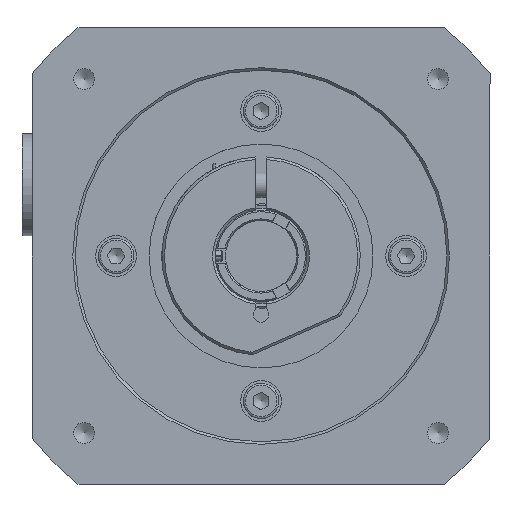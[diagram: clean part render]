
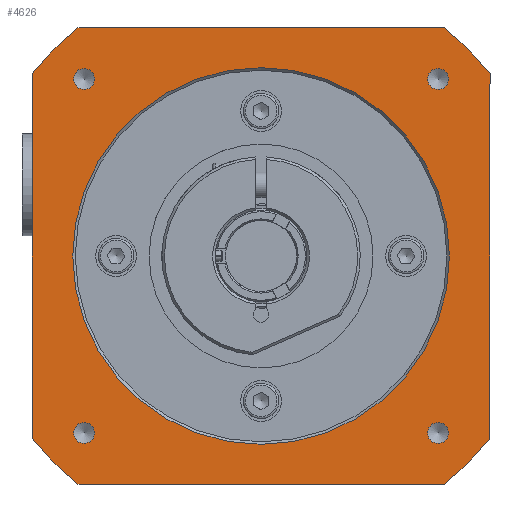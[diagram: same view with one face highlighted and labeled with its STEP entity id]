
A CAD part, left-side view. The second image highlights one B-rep face of the part: STEP entity #4626.
In plain terms, the highlighted planar face has unit normal (-1, 0, 0) as drawn and (0, 0, 1) by its records, which use the part's own axes.
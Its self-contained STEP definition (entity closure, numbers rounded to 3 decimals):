
#256=FACE_BOUND('',#1561,.T.);
#257=FACE_BOUND('',#1562,.T.);
#258=FACE_BOUND('',#1563,.T.);
#259=FACE_BOUND('',#1564,.T.);
#260=FACE_BOUND('',#1565,.T.);
#583=LINE('',#8144,#799);
#584=LINE('',#8148,#800);
#585=LINE('',#8152,#801);
#586=LINE('',#8155,#802);
#799=VECTOR('',#6381,10.);
#800=VECTOR('',#6384,10.);
#801=VECTOR('',#6387,10.);
#802=VECTOR('',#6390,10.);
#955=PLANE('',#5273);
#1166=FACE_OUTER_BOUND('',#1560,.T.);
#1560=EDGE_LOOP('',(#3819,#3820,#3821,#3822,#3823,#3824,#3825,#3826));
#1561=EDGE_LOOP('',(#3827));
#1562=EDGE_LOOP('',(#3828));
#1563=EDGE_LOOP('',(#3829));
#1564=EDGE_LOOP('',(#3830));
#1565=EDGE_LOOP('',(#3831));
#1927=CIRCLE('',#5270,37.025);
#1929=CIRCLE('',#5274,57.5);
#1930=CIRCLE('',#5275,57.5);
#1931=CIRCLE('',#5276,57.5);
#1932=CIRCLE('',#5277,57.5);
#1933=CIRCLE('',#5278,2.067);
#1934=CIRCLE('',#5279,2.067);
#1935=CIRCLE('',#5280,2.067);
#1936=CIRCLE('',#5281,2.067);
#2313=VERTEX_POINT('',#8134);
#2315=VERTEX_POINT('',#8140);
#2316=VERTEX_POINT('',#8141);
#2317=VERTEX_POINT('',#8143);
#2318=VERTEX_POINT('',#8145);
#2319=VERTEX_POINT('',#8147);
#2320=VERTEX_POINT('',#8149);
#2321=VERTEX_POINT('',#8151);
#2322=VERTEX_POINT('',#8153);
#2323=VERTEX_POINT('',#8156);
#2324=VERTEX_POINT('',#8158);
#2325=VERTEX_POINT('',#8160);
#2326=VERTEX_POINT('',#8162);
#2851=EDGE_CURVE('',#2313,#2313,#1927,.T.);
#2853=EDGE_CURVE('',#2315,#2316,#1929,.T.);
#2854=EDGE_CURVE('',#2317,#2315,#583,.T.);
#2855=EDGE_CURVE('',#2318,#2317,#1930,.T.);
#2856=EDGE_CURVE('',#2319,#2318,#584,.T.);
#2857=EDGE_CURVE('',#2320,#2319,#1931,.T.);
#2858=EDGE_CURVE('',#2321,#2320,#585,.T.);
#2859=EDGE_CURVE('',#2322,#2321,#1932,.T.);
#2860=EDGE_CURVE('',#2316,#2322,#586,.T.);
#2861=EDGE_CURVE('',#2323,#2323,#1933,.T.);
#2862=EDGE_CURVE('',#2324,#2324,#1934,.T.);
#2863=EDGE_CURVE('',#2325,#2325,#1935,.T.);
#2864=EDGE_CURVE('',#2326,#2326,#1936,.T.);
#3819=ORIENTED_EDGE('',*,*,#2853,.F.);
#3820=ORIENTED_EDGE('',*,*,#2854,.F.);
#3821=ORIENTED_EDGE('',*,*,#2855,.F.);
#3822=ORIENTED_EDGE('',*,*,#2856,.F.);
#3823=ORIENTED_EDGE('',*,*,#2857,.F.);
#3824=ORIENTED_EDGE('',*,*,#2858,.F.);
#3825=ORIENTED_EDGE('',*,*,#2859,.F.);
#3826=ORIENTED_EDGE('',*,*,#2860,.F.);
#3827=ORIENTED_EDGE('',*,*,#2861,.T.);
#3828=ORIENTED_EDGE('',*,*,#2862,.T.);
#3829=ORIENTED_EDGE('',*,*,#2863,.T.);
#3830=ORIENTED_EDGE('',*,*,#2864,.T.);
#3831=ORIENTED_EDGE('',*,*,#2851,.F.);
#4626=ADVANCED_FACE('',(#1166,#256,#257,#258,#259,#260),#955,.T.);
#5270=AXIS2_PLACEMENT_3D('',#8135,#6371,#6372);
#5273=AXIS2_PLACEMENT_3D('',#8139,#6377,#6378);
#5274=AXIS2_PLACEMENT_3D('',#8142,#6379,#6380);
#5275=AXIS2_PLACEMENT_3D('',#8146,#6382,#6383);
#5276=AXIS2_PLACEMENT_3D('',#8150,#6385,#6386);
#5277=AXIS2_PLACEMENT_3D('',#8154,#6388,#6389);
#5278=AXIS2_PLACEMENT_3D('',#8157,#6391,#6392);
#5279=AXIS2_PLACEMENT_3D('',#8159,#6393,#6394);
#5280=AXIS2_PLACEMENT_3D('',#8161,#6395,#6396);
#5281=AXIS2_PLACEMENT_3D('',#8163,#6397,#6398);
#6371=DIRECTION('center_axis',(0.,0.,1.));
#6372=DIRECTION('ref_axis',(-1.,0.,0.));
#6377=DIRECTION('center_axis',(0.,0.,1.));
#6378=DIRECTION('ref_axis',(1.,0.,0.));
#6379=DIRECTION('center_axis',(0.,0.,-1.));
#6380=DIRECTION('ref_axis',(0.623,-0.783,0.));
#6381=DIRECTION('',(0.,1.,0.));
#6382=DIRECTION('center_axis',(0.,0.,-1.));
#6383=DIRECTION('ref_axis',(0.783,0.623,0.));
#6384=DIRECTION('',(-1.,0.,0.));
#6385=DIRECTION('center_axis',(0.,0.,-1.));
#6386=DIRECTION('ref_axis',(-0.623,0.783,0.));
#6387=DIRECTION('',(0.,-1.,0.));
#6388=DIRECTION('center_axis',(0.,0.,-1.));
#6389=DIRECTION('ref_axis',(-0.783,-0.623,0.));
#6390=DIRECTION('',(1.,0.,0.));
#6391=DIRECTION('center_axis',(0.,0.,-1.));
#6392=DIRECTION('ref_axis',(1.,0.,0.));
#6393=DIRECTION('center_axis',(0.,0.,-1.));
#6394=DIRECTION('ref_axis',(0.,1.,0.));
#6395=DIRECTION('center_axis',(0.,0.,-1.));
#6396=DIRECTION('ref_axis',(-1.,0.,0.));
#6397=DIRECTION('center_axis',(0.,0.,-1.));
#6398=DIRECTION('ref_axis',(0.,-1.,0.));
#8134=CARTESIAN_POINT('',(37.025,0.,25.5));
#8135=CARTESIAN_POINT('Origin',(0.,0.,25.5));
#8139=CARTESIAN_POINT('Origin',(0.,0.,
25.5));
#8140=CARTESIAN_POINT('',(-45.,35.795,25.5));
#8141=CARTESIAN_POINT('',(-35.795,45.,25.5));
#8142=CARTESIAN_POINT('Origin',(0.,0.,25.5));
#8143=CARTESIAN_POINT('',(-45.,-35.795,25.5));
#8144=CARTESIAN_POINT('',(-45.,-35.795,25.5));
#8145=CARTESIAN_POINT('',(-35.795,-45.,25.5));
#8146=CARTESIAN_POINT('Origin',(0.,0.,25.5));
#8147=CARTESIAN_POINT('',(35.795,-45.,25.5));
#8148=CARTESIAN_POINT('',(35.795,-45.,25.5));
#8149=CARTESIAN_POINT('',(45.,-35.795,25.5));
#8150=CARTESIAN_POINT('Origin',(0.,0.,25.5));
#8151=CARTESIAN_POINT('',(45.,35.795,25.5));
#8152=CARTESIAN_POINT('',(45.,35.795,25.5));
#8153=CARTESIAN_POINT('',(35.795,45.,25.5));
#8154=CARTESIAN_POINT('Origin',(0.,0.,25.5));
#8155=CARTESIAN_POINT('',(-35.795,45.,25.5));
#8156=CARTESIAN_POINT('',(-32.723,34.79,25.5));
#8157=CARTESIAN_POINT('Origin',(-34.79,34.79,25.5));
#8158=CARTESIAN_POINT('',(-34.79,-32.723,25.5));
#8159=CARTESIAN_POINT('Origin',(-34.79,-34.79,25.5));
#8160=CARTESIAN_POINT('',(32.723,-34.79,25.5));
#8161=CARTESIAN_POINT('Origin',(34.79,-34.79,25.5));
#8162=CARTESIAN_POINT('',(34.79,32.723,25.5));
#8163=CARTESIAN_POINT('Origin',(34.79,34.79,25.5));
